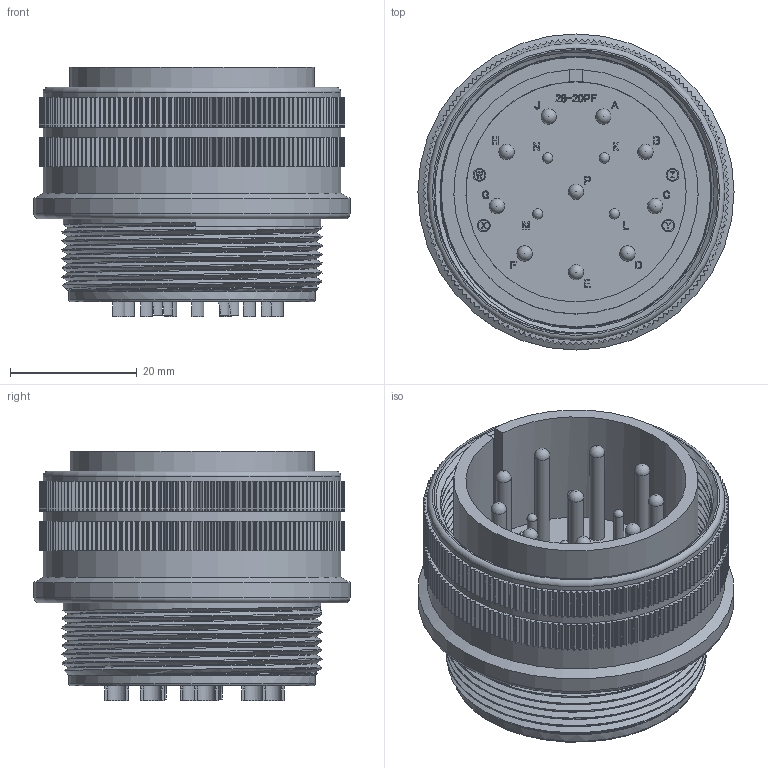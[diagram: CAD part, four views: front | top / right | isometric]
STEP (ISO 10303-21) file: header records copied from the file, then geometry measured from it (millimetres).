
FILE_DESCRIPTION (( 'STEP AP203' ), '1' );
FILE_NAME ('DMS3106A28-20P(D190).STEP', '2021-03-24T08:28:20', ( '' ), ( '' ), 'SwSTEP 2.0', 'SolidWorks 2018', '' );
FILE_SCHEMA (( 'CONFIG_CONTROL_DESIGN' ));
Length unit declared in the file: millimetre
Products named in the file (1): DMS3106A28-20P(D190)
Bounding box: 49.95 x 49.95 x 39.44 mm (x, y, z)
Volume: 30897.9 mm3; surface area: 24079.3 mm2
Topology: 1 solids, 1 shells, 3045 faces, 8757 edges, 5835 vertices
Faces by surface type: cylinder 1437, plane 1259, bspline 324, torus 13, cone 8, sphere 4
Full cylindrical faces by diameter (mm): 1.59 x4, 1.7 x4, 2 x4, 2.41 x10, 2.85 x10, 3.79 x10, 3.87 x10, 31.75 x1, 34.8 x1, 36.35 x1, 38.98 x1, 40.69 x1, 41.25 x1, 42.6 x1, 42.9 x1, 43.5 x1, 47 x3, 49.95 x1
Entity records: 113364 total; most frequent: CARTESIAN_POINT 33741, ORIENTED_EDGE 17194, DIRECTION 16192, EDGE_CURVE 8597, VERTEX_POINT 5770, AXIS2_PLACEMENT_3D 5580, VECTOR 5032, LINE 5032
